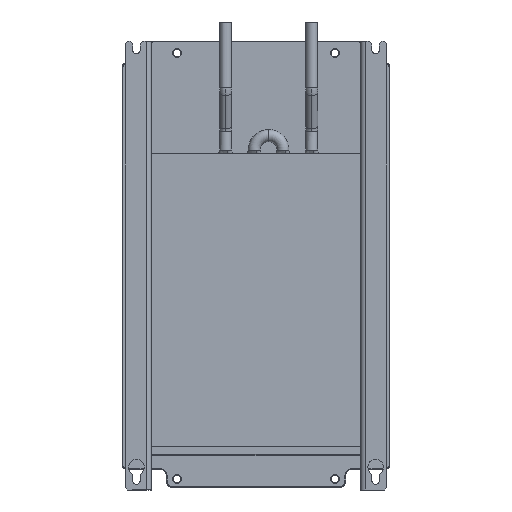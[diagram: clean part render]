
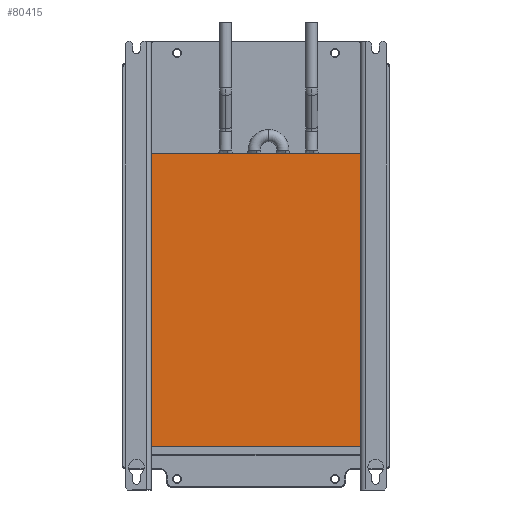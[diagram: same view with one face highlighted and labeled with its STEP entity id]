
A CAD part, front view. The second image highlights one B-rep face of the part: STEP entity #80415.
In plain terms, the highlighted planar face has unit normal (0, -1, 0).
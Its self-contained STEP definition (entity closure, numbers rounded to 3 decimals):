
#519 = CARTESIAN_POINT ( 'NONE',  ( 89.5, -21., 94. ) ) ;
#3395 = EDGE_CURVE ( 'NONE', #61098, #24644, #79798, .T. ) ;
#4399 = DIRECTION ( 'NONE',  ( 0., 1., 0. ) ) ;
#5818 = DIRECTION ( 'NONE',  ( 0., 0., -1. ) ) ;
#7030 = CARTESIAN_POINT ( 'NONE',  ( 93.5, -21., -151. ) ) ;
#12987 = DIRECTION ( 'NONE',  ( -1., 0., 0. ) ) ;
#15842 = LINE ( 'NONE', #38691, #24493 ) ;
#19884 = EDGE_CURVE ( 'NONE', #20440, #24644, #15842, .T. ) ;
#19922 = CARTESIAN_POINT ( 'NONE',  ( 93.5, -21., 94. ) ) ;
#20440 = VERTEX_POINT ( 'NONE', #70329 ) ;
#24493 = VECTOR ( 'NONE', #31787, 1000. ) ;
#24644 = VERTEX_POINT ( 'NONE', #59810 ) ;
#25247 = VECTOR ( 'NONE', #12987, 1000. ) ;
#25738 = EDGE_LOOP ( 'NONE', ( #95442, #26597, #61031, #101545 ) ) ;
#26597 = ORIENTED_EDGE ( 'NONE', *, *, #19884, .T. ) ;
#29378 = CARTESIAN_POINT ( 'NONE',  ( 93.5, -21., -151. ) ) ;
#31787 = DIRECTION ( 'NONE',  ( 0., 0., -1. ) ) ;
#34747 = FACE_OUTER_BOUND ( 'NONE', #25738, .T. ) ;
#35035 = CARTESIAN_POINT ( 'NONE',  ( 89.5, -21., -151. ) ) ;
#38691 = CARTESIAN_POINT ( 'NONE',  ( -85.5, -21., 280.507 ) ) ;
#44643 = LINE ( 'NONE', #102515, #60815 ) ;
#56502 = AXIS2_PLACEMENT_3D ( 'NONE', #29378, #4399, #86713 ) ;
#59810 = CARTESIAN_POINT ( 'NONE',  ( -85.5, -21., -151. ) ) ;
#59849 = VERTEX_POINT ( 'NONE', #519 ) ;
#60815 = VECTOR ( 'NONE', #5818, 1000. ) ;
#61031 = ORIENTED_EDGE ( 'NONE', *, *, #3395, .F. ) ;
#61098 = VERTEX_POINT ( 'NONE', #35035 ) ;
#70329 = CARTESIAN_POINT ( 'NONE',  ( -85.5, -21., 94. ) ) ;
#74098 = EDGE_CURVE ( 'NONE', #59849, #20440, #84181, .T. ) ;
#78222 = PLANE ( 'NONE',  #56502 ) ;
#79798 = LINE ( 'NONE', #7030, #89934 ) ;
#80415 = ADVANCED_FACE ( 'NONE', ( #34747 ), #78222, .F. ) ;
#84181 = LINE ( 'NONE', #19922, #25247 ) ;
#86713 = DIRECTION ( 'NONE',  ( 1., 0., 0. ) ) ;
#89934 = VECTOR ( 'NONE', #102663, 1000. ) ;
#95442 = ORIENTED_EDGE ( 'NONE', *, *, #74098, .T. ) ;
#99828 = EDGE_CURVE ( 'NONE', #59849, #61098, #44643, .T. ) ;
#101545 = ORIENTED_EDGE ( 'NONE', *, *, #99828, .F. ) ;
#102515 = CARTESIAN_POINT ( 'NONE',  ( 89.5, -21., 280.507 ) ) ;
#102663 = DIRECTION ( 'NONE',  ( -1., 0., 0. ) ) ;
